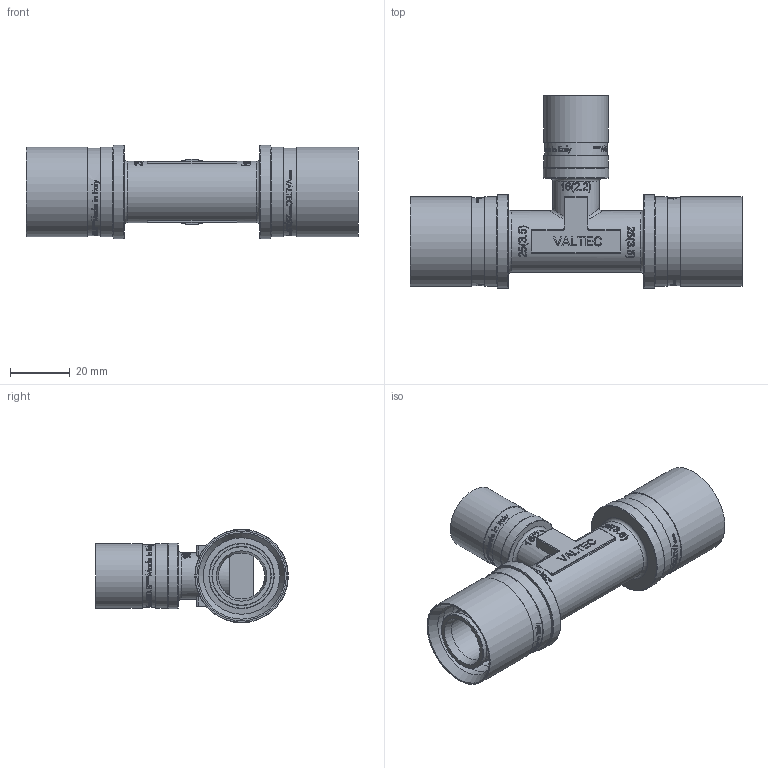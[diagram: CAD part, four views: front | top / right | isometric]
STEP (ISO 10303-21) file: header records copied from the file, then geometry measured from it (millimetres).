
FILE_DESCRIPTION(/* description */ (''),/* implementation_level */ '2;1');
FILE_NAME(/* name */ 'F:\Артём\00000\Работа удаленка\Аксеальные фитинги\VTm.431.BG.251625.stp',/* time_stamp */ '2021-01-26T12:53:37+03:00',/* author */ ('almis'),/* organization */ (''),/* preprocessor_version */ 'ST-DEVELOPER v18',/* originating_system */ 'Autodesk Inventor 2020',/* authorisation */ '');
FILE_SCHEMA (('AUTOMOTIVE_DESIGN { 1 0 10303 214 3 1 1 }'));
Length unit declared in the file: millimetre
Products named in the file (1): VTm.403.BG.001616
Bounding box: 110.82 x 64.31 x 31.2 mm (x, y, z)
Volume: 37298.3 mm3; surface area: 31601.2 mm2
Topology: 1 solids, 3 shells, 2555 faces, 7007 edges, 4700 vertices
Faces by surface type: bspline 1295, plane 868, cylinder 289, torus 85, cone 18
Full cylindrical faces by diameter (mm): 10 x1, 12.8 x5, 13.4 x4, 15.3 x1, 15.4 x1, 15.5 x1, 16.9 x2, 18.3 x10, 19.8 x8, 20.5 x1, 20.8 x1, 21.4 x2, 21.8 x2, 22 x1, 25.5 x4, 29.3 x2, 29.85 x4, 31.2 x2
Entity records: 105288 total; most frequent: CARTESIAN_POINT 47980, ORIENTED_EDGE 14000, DIRECTION 8187, EDGE_CURVE 7000, VERTEX_POINT 4701, LINE 3107, VECTOR 3107, EDGE_LOOP 2807
